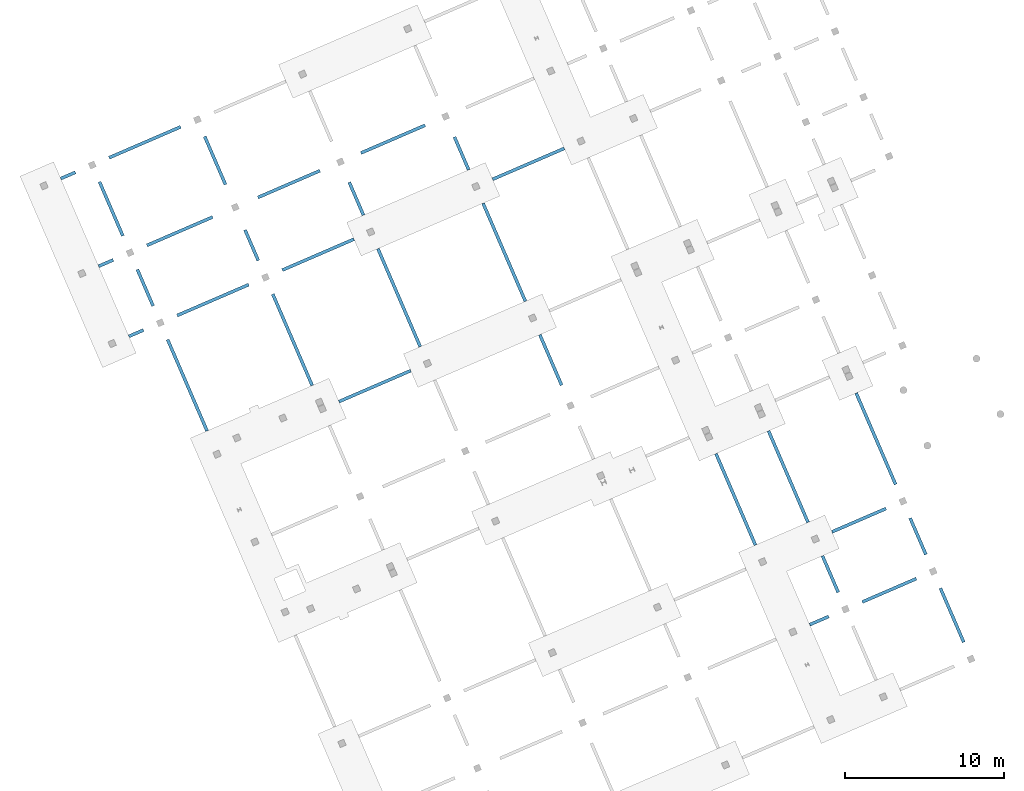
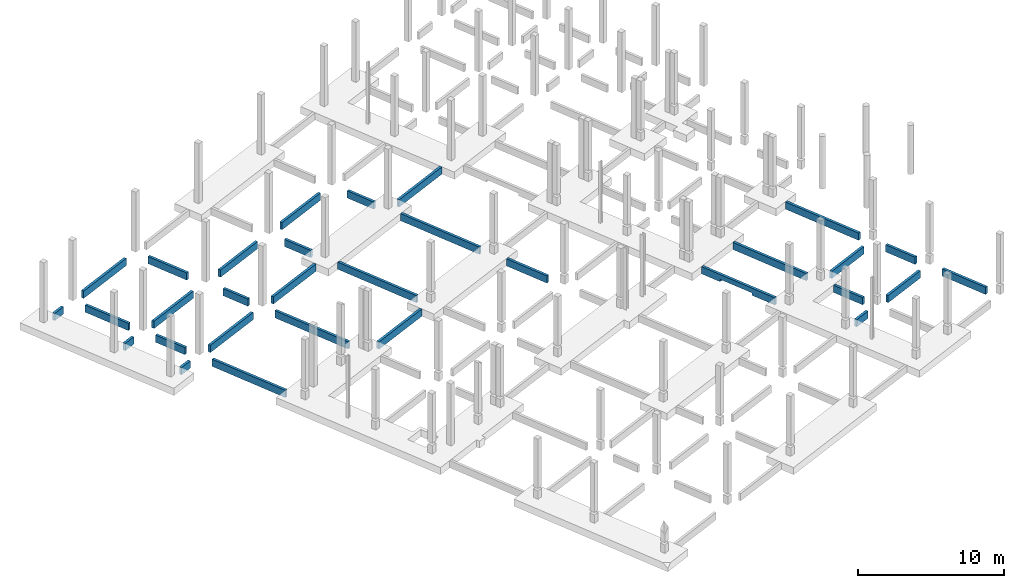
# One storey, part 9 of 11: 31 beams.
"""IFC4 building model written with IfcOpenShell, lengths in metres."""

from ifc_helpers import new_model, entity, si_unit, converted_unit, derived_unit, direction, frame, origin, place, context, subcontext, project, spatial, indexed_curve, outline, extrude, source, transform, mapped, material, type_object, type_shapes, element, save


model = new_model("IFC4")

# Units and contexts
model_context = context("Model", 3, precision=1e-05, world=origin(), true_north=direction((6.12323399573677e-17, 1.0)))
body_context = subcontext(model_context, "Body", "Model", "MODEL_VIEW")
ifc_project = project(units=[si_unit("LENGTHUNIT", "METRE"), si_unit("AREAUNIT", "SQUARE_METRE"), si_unit("VOLUMEUNIT", "CUBIC_METRE"), converted_unit("PLANEANGLEUNIT", "DEGREE", entity("IfcPlaneAngleMeasure", 0.0174532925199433), si_unit("PLANEANGLEUNIT", "RADIAN"), dimensions=[0, 0, 0, 0, 0, 0, 0]), si_unit("MASSUNIT", "GRAM", prefix="KILO"), derived_unit("MOMENTOFINERTIAUNIT", [(si_unit("LENGTHUNIT", "METRE"), 4)]), derived_unit("LINEARFORCEUNIT", [(si_unit("MASSUNIT", "GRAM", prefix="KILO"), 1), (si_unit("TIMEUNIT", "SECOND"), -2)]), derived_unit("WARPINGCONSTANTUNIT", [(si_unit("LENGTHUNIT", "METRE"), 6)]), derived_unit("THERMALTRANSMITTANCEUNIT", [(si_unit("MASSUNIT", "GRAM", prefix="KILO"), 1), (si_unit("THERMODYNAMICTEMPERATUREUNIT", "KELVIN"), -1), (si_unit("TIMEUNIT", "SECOND"), -3)]), derived_unit("USERDEFINED", [(si_unit("MASSUNIT", "GRAM", prefix="KILO"), 1), (si_unit("TIMEUNIT", "SECOND"), -2), (si_unit("THERMODYNAMICTEMPERATUREUNIT", "KELVIN"), -1)]), derived_unit("THERMALRESISTANCEUNIT", [(si_unit("MASSUNIT", "GRAM", prefix="KILO"), -1), (si_unit("TIMEUNIT", "SECOND"), 3), (si_unit("THERMODYNAMICTEMPERATUREUNIT", "KELVIN"), 1)])], contexts=[model_context])

# Site, building, storey
site_placement = place(None, origin())
site = spatial("IfcSite", under=ifc_project, at=site_placement, Name="Default", CompositionType="ELEMENT")
building_placement = place(site_placement, frame((12.6613425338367, -82.5732315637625, 317.15), z_axis=(0.0, 0.0, 1.0), x_axis=(-0.396377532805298, 0.918087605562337, 0.0)))
building = spatial("IfcBuilding", under=site, at=building_placement, Name="CESFAM Coyhaique", CompositionType="ELEMENT")
storey_placement = place(building_placement, frame((0.0, 0.0, -0.950000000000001)))
storey = spatial("IfcBuildingStorey", under=building, at=storey_placement, Name="d_Fundaciones", CompositionType="ELEMENT", Elevation=-0.950000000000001)

# Beams
ifc_material = material(Name="HA")
beam_type_1 = type_object("IfcBeamType", Name="M_Concrete-Rectangular Beam:200 x 600mm", PredefinedType="BEAM", material=ifc_material)
shared_shape_1 = source(origin(), body_context, "Body", "SweptSolid", [
    extrude(outline(indexed_curve([(-0.100000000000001, -0.3), (0.100000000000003, -0.3), (0.100000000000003, 0.3), (-0.100000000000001, 0.3), (-0.100000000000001, -0.3)], self_intersect=False)), frame((10.1688534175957, -12.7471495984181, -1.25), z_axis=(0.0, -1.0, 0.0), x_axis=(-1.0, 0.0, 0.0)), (0.0, 0.0, 1.0), 1.29999999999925),
])
type_shapes(beam_type_1, [shared_shape_1])
beam_1_placement = place(storey_placement, frame((0.0, 0.0, 0.950000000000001)))
element("IfcBeam", 1, at=beam_1_placement, inside=storey, type_object=beam_type_1, Name="M_Concrete-Rectangular Beam:200 x 600mm", ObjectType="M_Concrete-Rectangular Beam:200 x 600mm", PredefinedType="BEAM", context=body_context, shape_type="MappedRepresentation", body=[
    mapped(shared_shape_1, transform((0.0, 0.0, 0.0), scale=1.0)),
])
beam_type_2 = type_object("IfcBeamType", Name="M_Concrete-Rectangular Beam:200 x 600mm", PredefinedType="BEAM", material=ifc_material)
shared_shape_2 = source(origin(), body_context, "Body", "SweptSolid", [
    extrude(outline(indexed_curve([(-0.3, -0.100000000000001), (0.3, -0.100000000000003), (0.3, 0.100000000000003), (-0.3, 0.100000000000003), (-0.3, -0.100000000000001)], self_intersect=False)), frame((11.3188534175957, -15.1971495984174, -1.25), z_axis=(1.0, 0.0, 0.0), x_axis=(0.0, 0.0, -1.0)), (0.0, 0.0, 1.0), 2.50000000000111),
])
type_shapes(beam_type_2, [shared_shape_2])
beam_2_placement = place(storey_placement, frame((0.0, 0.0, 0.950000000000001)))
element("IfcBeam", 2, at=beam_2_placement, inside=storey, type_object=beam_type_2, Name="M_Concrete-Rectangular Beam:200 x 600mm", ObjectType="M_Concrete-Rectangular Beam:200 x 600mm", PredefinedType="BEAM", context=body_context, shape_type="MappedRepresentation", body=[
    mapped(shared_shape_2, transform((0.0, 0.0, 0.0), scale=1.0)),
])
beam_type_3 = type_object("IfcBeamType", Name="M_Concrete-Rectangular Beam:200 x 600mm", PredefinedType="BEAM", material=ifc_material)
shared_shape_3 = source(origin(), body_context, "Body", "SweptSolid", [
    extrude(outline(indexed_curve([(-0.100000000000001, -0.3), (0.100000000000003, -0.3), (0.100000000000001, 0.3), (-0.100000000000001, 0.3), (-0.100000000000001, -0.3)], self_intersect=False)), frame((10.1688534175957, -16.3471495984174, -1.25), z_axis=(0.0, -1.0, 0.0), x_axis=(-1.0, 0.0, 0.0)), (0.0, 0.0, 1.0), 3.69999999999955),
])
type_shapes(beam_type_3, [shared_shape_3])
beam_3_placement = place(storey_placement, frame((0.0, 0.0, 0.950000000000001)))
element("IfcBeam", 3, at=beam_3_placement, inside=storey, type_object=beam_type_3, Name="M_Concrete-Rectangular Beam:200 x 600mm", ObjectType="M_Concrete-Rectangular Beam:200 x 600mm", PredefinedType="BEAM", context=body_context, shape_type="MappedRepresentation", body=[
    mapped(shared_shape_3, transform((0.0, 0.0, 0.0), scale=1.0)),
])
beam_type_4 = type_object("IfcBeamType", Name="M_Concrete-Rectangular Beam:200 x 600mm", PredefinedType="BEAM", material=ifc_material)
shared_shape_4 = source(origin(), body_context, "Body", "SweptSolid", [
    extrude(outline(indexed_curve([(-0.100000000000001, -0.3), (0.100000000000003, -0.3), (0.100000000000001, 0.3), (-0.100000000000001, 0.3), (-0.100000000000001, -0.3)], self_intersect=False)), frame((14.9688534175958, -16.3471495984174, -1.25), z_axis=(0.0, -1.0, 0.0), x_axis=(-1.0, 0.0, 0.0)), (0.0, 0.0, 1.0), 3.69999999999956),
])
type_shapes(beam_type_4, [shared_shape_4])
beam_4_placement = place(storey_placement, frame((0.0, 0.0, 0.950000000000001)))
element("IfcBeam", 4, at=beam_4_placement, inside=storey, type_object=beam_type_4, Name="M_Concrete-Rectangular Beam:200 x 600mm", ObjectType="M_Concrete-Rectangular Beam:200 x 600mm", PredefinedType="BEAM", context=body_context, shape_type="MappedRepresentation", body=[
    mapped(shared_shape_4, transform((0.0, 0.0, 0.0), scale=1.0)),
])
beam_type_5 = type_object("IfcBeamType", Name="M_Concrete-Rectangular Beam:200 x 600mm", PredefinedType="BEAM", material=ifc_material)
shared_shape_5 = source(origin(), body_context, "Body", "SweptSolid", [
    extrude(outline(indexed_curve([(-0.3, -0.0999999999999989), (0.3, -0.100000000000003), (0.3, 0.100000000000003), (-0.3, 0.100000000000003), (-0.3, -0.0999999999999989)], self_intersect=False)), frame((5.31885341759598, -21.1971495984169, -1.25), z_axis=(1.0, 0.0, 0.0), x_axis=(0.0, 0.0, -1.0)), (0.0, 0.0, 1.0), 3.70000000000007),
])
type_shapes(beam_type_5, [shared_shape_5])
beam_5_placement = place(storey_placement, frame((0.0, 0.0, 0.950000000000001)))
element("IfcBeam", 5, at=beam_5_placement, inside=storey, type_object=beam_type_5, Name="M_Concrete-Rectangular Beam:200 x 600mm", ObjectType="M_Concrete-Rectangular Beam:200 x 600mm", PredefinedType="BEAM", context=body_context, shape_type="MappedRepresentation", body=[
    mapped(shared_shape_5, transform((0.0, 0.0, 0.0), scale=1.0)),
])
beam_type_6 = type_object("IfcBeamType", Name="M_Concrete-Rectangular Beam:200 x 600mm", PredefinedType="BEAM", material=ifc_material)
shared_shape_6 = source(origin(), body_context, "Body", "SweptSolid", [
    extrude(outline(indexed_curve([(-0.3, -0.0999999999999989), (0.3, -0.0999999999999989), (0.3, 0.100000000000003), (-0.3, 0.100000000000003), (-0.3, -0.0999999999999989)], self_intersect=False)), frame((11.318853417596, -21.1971495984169, -1.25), z_axis=(1.0, 0.0, 0.0), x_axis=(0.0, 0.0, -1.0)), (0.0, 0.0, 1.0), 2.50000000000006),
])
type_shapes(beam_type_6, [shared_shape_6])
beam_6_placement = place(storey_placement, frame((0.0, 0.0, 0.950000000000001)))
element("IfcBeam", 6, at=beam_6_placement, inside=storey, type_object=beam_type_6, Name="M_Concrete-Rectangular Beam:200 x 600mm", ObjectType="M_Concrete-Rectangular Beam:200 x 600mm", PredefinedType="BEAM", context=body_context, shape_type="MappedRepresentation", body=[
    mapped(shared_shape_6, transform((0.0, 0.0, 0.0), scale=1.0)),
])
beam_type_7 = type_object("IfcBeamType", Name="M_Concrete-Rectangular Beam:200 x 600mm", PredefinedType="BEAM", material=ifc_material)
shared_shape_7 = source(origin(), body_context, "Body", "SweptSolid", [
    extrude(outline(indexed_curve([(-0.100000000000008, -0.3), (0.0999999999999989, -0.3), (0.100000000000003, 0.3), (-0.100000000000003, 0.3), (-0.100000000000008, -0.3)], self_intersect=False)), frame((34.768853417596, 3.95285040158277, -1.25), z_axis=(0.0, 1.0, 0.0), x_axis=(-1.0, 0.0, 0.0)), (0.0, 0.0, 1.0), 4.89999999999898),
])
type_shapes(beam_type_7, [shared_shape_7])
beam_7_placement = place(storey_placement, frame((0.0, 0.0, 0.950000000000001)))
element("IfcBeam", 7, at=beam_7_placement, inside=storey, type_object=beam_type_7, Name="M_Concrete-Rectangular Beam:200 x 600mm", ObjectType="M_Concrete-Rectangular Beam:200 x 600mm", PredefinedType="BEAM", context=body_context, shape_type="MappedRepresentation", body=[
    mapped(shared_shape_7, transform((0.0, 0.0, 0.0), scale=1.0)),
])
beam_type_8 = type_object("IfcBeamType", Name="M_Concrete-Rectangular Beam:200 x 600mm", PredefinedType="BEAM", material=ifc_material)
shared_shape_8 = source(origin(), body_context, "Body", "SweptSolid", [
    extrude(outline(indexed_curve([(-0.3, -0.100000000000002), (0.3, -0.100000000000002), (0.3, 0.100000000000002), (-0.3, 0.100000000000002), (-0.3, -0.100000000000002)], self_intersect=False)), frame((30.1688534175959, -4.39714959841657, -1.25), z_axis=(1.0, 0.0, 0.0), x_axis=(0.0, 0.0, -1.0)), (0.0, 0.0, 1.0), 3.45000000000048),
])
type_shapes(beam_type_8, [shared_shape_8])
beam_8_placement = place(storey_placement, frame((0.0, 0.0, 0.950000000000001)))
element("IfcBeam", 8, at=beam_8_placement, inside=storey, type_object=beam_type_8, Name="M_Concrete-Rectangular Beam:200 x 600mm", ObjectType="M_Concrete-Rectangular Beam:200 x 600mm", PredefinedType="BEAM", context=body_context, shape_type="MappedRepresentation", body=[
    mapped(shared_shape_8, transform((0.0, 0.0, 0.0), scale=1.0)),
])
beam_type_9 = type_object("IfcBeamType", Name="M_Concrete-Rectangular Beam:200 x 600mm", PredefinedType="BEAM", material=ifc_material)
shared_shape_9 = source(origin(), body_context, "Body", "SweptSolid", [
    extrude(outline(indexed_curve([(-0.0999999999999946, -0.3), (0.100000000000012, -0.3), (0.100000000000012, 0.3), (-0.0999999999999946, 0.3), (-0.0999999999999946, -0.3)], self_intersect=False)), frame((43.7688534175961, 19.3528502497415, -1.25), z_axis=(0.0, -1.0, 0.0), x_axis=(-1.0, 0.0, 0.0)), (0.0, 0.0, 1.0), 0.99999984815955),
])
type_shapes(beam_type_9, [shared_shape_9])
beam_9_placement = place(storey_placement, frame((0.0, 0.0, 0.950000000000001)))
element("IfcBeam", 9, at=beam_9_placement, inside=storey, type_object=beam_type_9, Name="M_Concrete-Rectangular Beam:200 x 600mm", ObjectType="M_Concrete-Rectangular Beam:200 x 600mm", PredefinedType="BEAM", context=body_context, shape_type="MappedRepresentation", body=[
    mapped(shared_shape_9, transform((0.0, 0.0, 0.0), scale=1.0)),
])
beam_type_10 = type_object("IfcBeamType", Name="M_Concrete-Rectangular Beam:200 x 600mm", PredefinedType="BEAM", material=ifc_material)
shared_shape_10 = source(origin(), body_context, "Body", "SweptSolid", [
    extrude(outline(indexed_curve([(-0.0999999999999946, -0.3), (0.100000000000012, -0.3), (0.100000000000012, 0.3), (-0.0999999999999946, 0.3), (-0.0999999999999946, -0.3)], self_intersect=False)), frame((48.5688534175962, 19.3528502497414, -1.25), z_axis=(0.0, -1.0, 0.0), x_axis=(-1.0, 0.0, 0.0)), (0.0, 0.0, 1.0), 0.999999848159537),
])
type_shapes(beam_type_10, [shared_shape_10])
beam_10_placement = place(storey_placement, frame((0.0, 0.0, 0.950000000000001)))
element("IfcBeam", 10, at=beam_10_placement, inside=storey, type_object=beam_type_10, Name="M_Concrete-Rectangular Beam:200 x 600mm", ObjectType="M_Concrete-Rectangular Beam:200 x 600mm", PredefinedType="BEAM", context=body_context, shape_type="MappedRepresentation", body=[
    mapped(shared_shape_10, transform((0.0, 0.0, 0.0), scale=1.0)),
])
beam_type_11 = type_object("IfcBeamType", Name="M_Concrete-Rectangular Beam:200 x 600mm", PredefinedType="BEAM", material=ifc_material)
shared_shape_11 = source(origin(), body_context, "Body", "SweptSolid", [
    extrude(outline(indexed_curve([(-0.0999999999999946, -0.3), (0.100000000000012, -0.3), (0.100000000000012, 0.3), (-0.0999999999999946, 0.3), (-0.0999999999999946, -0.3)], self_intersect=False)), frame((54.5688534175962, 19.3528502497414, -1.25), z_axis=(0.0, -1.0, 0.0), x_axis=(-1.0, 0.0, 0.0)), (0.0, 0.0, 1.0), 0.999999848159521),
])
type_shapes(beam_type_11, [shared_shape_11])
beam_11_placement = place(storey_placement, frame((0.0, 0.0, 0.950000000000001)))
element("IfcBeam", 11, at=beam_11_placement, inside=storey, type_object=beam_type_11, Name="M_Concrete-Rectangular Beam:200 x 600mm", ObjectType="M_Concrete-Rectangular Beam:200 x 600mm", PredefinedType="BEAM", context=body_context, shape_type="MappedRepresentation", body=[
    mapped(shared_shape_11, transform((0.0, 0.0, 0.0), scale=1.0)),
])
beam_type_12 = type_object("IfcBeamType", Name="M_Concrete-Rectangular Beam:200 x 600mm", PredefinedType="BEAM", material=ifc_material)
shared_shape_12 = source(origin(), body_context, "Body", "SweptSolid", [
    extrude(outline(indexed_curve([(-0.3, -0.100000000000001), (0.3, -0.100000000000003), (0.3, 0.100000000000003), (-0.3, 0.100000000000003), (-0.3, -0.100000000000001)], self_intersect=False)), frame((44.9188534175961, 17.2028504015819, -1.25), z_axis=(1.0, 0.0, 0.0), x_axis=(0.0, 0.0, -1.0)), (0.0, 0.0, 1.0), 2.50000000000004),
])
type_shapes(beam_type_12, [shared_shape_12])
beam_12_placement = place(storey_placement, frame((0.0, 0.0, 0.950000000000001)))
element("IfcBeam", 12, at=beam_12_placement, inside=storey, type_object=beam_type_12, Name="M_Concrete-Rectangular Beam:200 x 600mm", ObjectType="M_Concrete-Rectangular Beam:200 x 600mm", PredefinedType="BEAM", context=body_context, shape_type="MappedRepresentation", body=[
    mapped(shared_shape_12, transform((0.0, 0.0, 0.0), scale=1.0)),
])
beam_type_13 = type_object("IfcBeamType", Name="M_Concrete-Rectangular Beam:200 x 600mm", PredefinedType="BEAM", material=ifc_material)
shared_shape_13 = source(origin(), body_context, "Body", "SweptSolid", [
    extrude(outline(indexed_curve([(-0.3, -0.100000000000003), (0.3, -0.100000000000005), (0.3, 0.100000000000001), (-0.3, 0.100000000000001), (-0.3, -0.100000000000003)], self_intersect=False)), frame((49.7188534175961, 17.2028504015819, -1.25), z_axis=(1.0, 0.0, 0.0), x_axis=(0.0, 0.0, -1.0)), (0.0, 0.0, 1.0), 3.70000000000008),
])
type_shapes(beam_type_13, [shared_shape_13])
beam_13_placement = place(storey_placement, frame((0.0, 0.0, 0.950000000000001)))
element("IfcBeam", 13, at=beam_13_placement, inside=storey, type_object=beam_type_13, Name="M_Concrete-Rectangular Beam:200 x 600mm", ObjectType="M_Concrete-Rectangular Beam:200 x 600mm", PredefinedType="BEAM", context=body_context, shape_type="MappedRepresentation", body=[
    mapped(shared_shape_13, transform((0.0, 0.0, 0.0), scale=1.0)),
])
beam_type_14 = type_object("IfcBeamType", Name="M_Concrete-Rectangular Beam:200 x 600mm", PredefinedType="BEAM", material=ifc_material)
shared_shape_14 = source(origin(), body_context, "Body", "SweptSolid", [
    extrude(outline(indexed_curve([(-0.100000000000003, -0.3), (0.100000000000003, -0.3), (0.100000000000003, 0.3), (-0.100000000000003, 0.3), (-0.100000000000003, -0.3)], self_intersect=False)), frame((43.7688534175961, 16.0528504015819, -1.25), z_axis=(0.0, -1.0, 0.0), x_axis=(-1.0, 0.0, 0.0)), (0.0, 0.0, 1.0), 4.9),
])
type_shapes(beam_type_14, [shared_shape_14])
beam_14_placement = place(storey_placement, frame((0.0, 0.0, 0.950000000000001)))
element("IfcBeam", 14, at=beam_14_placement, inside=storey, type_object=beam_type_14, Name="M_Concrete-Rectangular Beam:200 x 600mm", ObjectType="M_Concrete-Rectangular Beam:200 x 600mm", PredefinedType="BEAM", context=body_context, shape_type="MappedRepresentation", body=[
    mapped(shared_shape_14, transform((0.0, 0.0, 0.0), scale=1.0)),
])
beam_type_15 = type_object("IfcBeamType", Name="M_Concrete-Rectangular Beam:200 x 600mm", PredefinedType="BEAM", material=ifc_material)
shared_shape_15 = source(origin(), body_context, "Body", "SweptSolid", [
    extrude(outline(indexed_curve([(-0.100000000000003, -0.3), (0.100000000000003, -0.3), (0.100000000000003, 0.3), (-0.100000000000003, 0.3), (-0.100000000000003, -0.3)], self_intersect=False)), frame((48.5688534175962, 16.0528504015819, -1.25), z_axis=(0.0, -1.0, 0.0), x_axis=(-1.0, 0.0, 0.0)), (0.0, 0.0, 1.0), 4.5),
])
type_shapes(beam_type_15, [shared_shape_15])
beam_15_placement = place(storey_placement, frame((0.0, 0.0, 0.950000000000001)))
element("IfcBeam", 15, at=beam_15_placement, inside=storey, type_object=beam_type_15, Name="M_Concrete-Rectangular Beam:200 x 600mm", ObjectType="M_Concrete-Rectangular Beam:200 x 600mm", PredefinedType="BEAM", context=body_context, shape_type="MappedRepresentation", body=[
    mapped(shared_shape_15, transform((0.0, 0.0, 0.0), scale=1.0)),
])
beam_type_16 = type_object("IfcBeamType", Name="M_Concrete-Rectangular Beam:200 x 600mm", PredefinedType="BEAM", material=ifc_material)
shared_shape_16 = source(origin(), body_context, "Body", "SweptSolid", [
    extrude(outline(indexed_curve([(-0.100000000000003, -0.3), (0.100000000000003, -0.3), (0.100000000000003, 0.3), (-0.100000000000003, 0.3), (-0.100000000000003, -0.3)], self_intersect=False)), frame((54.5688534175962, 16.0528504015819, -1.25), z_axis=(0.0, -1.0, 0.0), x_axis=(-1.0, 0.0, 0.0)), (0.0, 0.0, 1.0), 4.9),
])
type_shapes(beam_type_16, [shared_shape_16])
beam_16_placement = place(storey_placement, frame((0.0, 0.0, 0.950000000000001)))
element("IfcBeam", 16, at=beam_16_placement, inside=storey, type_object=beam_type_16, Name="M_Concrete-Rectangular Beam:200 x 600mm", ObjectType="M_Concrete-Rectangular Beam:200 x 600mm", PredefinedType="BEAM", context=body_context, shape_type="MappedRepresentation", body=[
    mapped(shared_shape_16, transform((0.0, 0.0, 0.0), scale=1.0)),
])
beam_type_17 = type_object("IfcBeamType", Name="M_Concrete-Rectangular Beam:200 x 600mm", PredefinedType="BEAM", material=ifc_material)
shared_shape_17 = source(origin(), body_context, "Body", "SweptSolid", [
    extrude(outline(indexed_curve([(-0.3, -0.100000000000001), (0.3, -0.100000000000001), (0.3, 0.100000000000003), (-0.3, 0.100000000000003), (-0.3, -0.100000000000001)], self_intersect=False)), frame((44.9188534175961, 10.0028504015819, -1.25), z_axis=(1.0, 0.0, 0.0), x_axis=(0.0, 0.0, -1.0)), (0.0, 0.0, 1.0), 2.10000000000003),
])
type_shapes(beam_type_17, [shared_shape_17])
beam_17_placement = place(storey_placement, frame((0.0, 0.0, 0.950000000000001)))
element("IfcBeam", 17, at=beam_17_placement, inside=storey, type_object=beam_type_17, Name="M_Concrete-Rectangular Beam:200 x 600mm", ObjectType="M_Concrete-Rectangular Beam:200 x 600mm", PredefinedType="BEAM", context=body_context, shape_type="MappedRepresentation", body=[
    mapped(shared_shape_17, transform((0.0, 0.0, 0.0), scale=1.0)),
])
beam_type_18 = type_object("IfcBeamType", Name="M_Concrete-Rectangular Beam:200 x 600mm", PredefinedType="BEAM", material=ifc_material)
shared_shape_18 = source(origin(), body_context, "Body", "SweptSolid", [
    extrude(outline(indexed_curve([(-0.3, -0.100000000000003), (0.3, -0.100000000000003), (0.3, 0.100000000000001), (-0.3, 0.100000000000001), (-0.3, -0.100000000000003)], self_intersect=False)), frame((50.1188534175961, 10.0028504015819, -1.25), z_axis=(1.0, 0.0, 0.0), x_axis=(0.0, 0.0, -1.0)), (0.0, 0.0, 1.0), 3.30000000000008),
])
type_shapes(beam_type_18, [shared_shape_18])
beam_18_placement = place(storey_placement, frame((0.0, 0.0, 0.950000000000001)))
element("IfcBeam", 18, at=beam_18_placement, inside=storey, type_object=beam_type_18, Name="M_Concrete-Rectangular Beam:200 x 600mm", ObjectType="M_Concrete-Rectangular Beam:200 x 600mm", PredefinedType="BEAM", context=body_context, shape_type="MappedRepresentation", body=[
    mapped(shared_shape_18, transform((0.0, 0.0, 0.0), scale=1.0)),
])
beam_type_19 = type_object("IfcBeamType", Name="M_Concrete-Rectangular Beam:200 x 600mm", PredefinedType="BEAM", material=ifc_material)
shared_shape_19 = source(origin(), body_context, "Body", "SweptSolid", [
    extrude(outline(indexed_curve([(-0.100000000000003, -0.3), (0.100000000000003, -0.3), (0.100000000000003, 0.3), (-0.100000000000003, 0.3), (-0.100000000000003, -0.3)], self_intersect=False)), frame((43.7688534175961, 8.8528504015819, -1.25), z_axis=(0.0, -1.0, 0.0), x_axis=(-1.0, 0.0, 0.0)), (0.0, 0.0, 1.0), 4.89999999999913),
])
type_shapes(beam_type_19, [shared_shape_19])
beam_19_placement = place(storey_placement, frame((0.0, 0.0, 0.950000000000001)))
element("IfcBeam", 19, at=beam_19_placement, inside=storey, type_object=beam_type_19, Name="M_Concrete-Rectangular Beam:200 x 600mm", ObjectType="M_Concrete-Rectangular Beam:200 x 600mm", PredefinedType="BEAM", context=body_context, shape_type="MappedRepresentation", body=[
    mapped(shared_shape_19, transform((0.0, 0.0, 0.0), scale=1.0)),
])
beam_type_20 = type_object("IfcBeamType", Name="M_Concrete-Rectangular Beam:200 x 600mm", PredefinedType="BEAM", material=ifc_material)
shared_shape_20 = source(origin(), body_context, "Body", "SweptSolid", [
    extrude(outline(indexed_curve([(-0.100000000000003, -0.3), (0.100000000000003, -0.3), (0.100000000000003, 0.3), (-0.100000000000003, 0.3), (-0.100000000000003, -0.3)], self_intersect=False)), frame((48.5688534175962, 8.45285040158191, -1.25), z_axis=(0.0, -1.0, 0.0), x_axis=(-1.0, 0.0, 0.0)), (0.0, 0.0, 1.0), 4.24999999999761),
])
type_shapes(beam_type_20, [shared_shape_20])
beam_20_placement = place(storey_placement, frame((0.0, 0.0, 0.950000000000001)))
element("IfcBeam", 20, at=beam_20_placement, inside=storey, type_object=beam_type_20, Name="M_Concrete-Rectangular Beam:200 x 600mm", ObjectType="M_Concrete-Rectangular Beam:200 x 600mm", PredefinedType="BEAM", context=body_context, shape_type="MappedRepresentation", body=[
    mapped(shared_shape_20, transform((0.0, 0.0, 0.0), scale=1.0)),
])
beam_type_21 = type_object("IfcBeamType", Name="M_Concrete-Rectangular Beam:200 x 600mm", PredefinedType="BEAM", material=ifc_material)
shared_shape_21 = source(origin(), body_context, "Body", "SweptSolid", [
    extrude(outline(indexed_curve([(-0.3, -0.100000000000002), (0.3, -0.100000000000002), (0.3, 0.100000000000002), (-0.3, 0.100000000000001), (-0.3, -0.100000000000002)], self_intersect=False)), frame((44.9188534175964, 2.80285040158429, -1.25), z_axis=(1.0, 0.0, 0.0), x_axis=(0.0, 0.0, -1.0)), (0.0, 0.0, 1.0), 2.24999999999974),
])
type_shapes(beam_type_21, [shared_shape_21])
beam_21_placement = place(storey_placement, frame((0.0, 0.0, 0.950000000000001)))
element("IfcBeam", 21, at=beam_21_placement, inside=storey, type_object=beam_type_21, Name="M_Concrete-Rectangular Beam:200 x 600mm", ObjectType="M_Concrete-Rectangular Beam:200 x 600mm", PredefinedType="BEAM", context=body_context, shape_type="MappedRepresentation", body=[
    mapped(shared_shape_21, transform((0.0, 0.0, 0.0), scale=1.0)),
])
beam_type_22 = type_object("IfcBeamType", Name="M_Concrete-Rectangular Beam:200 x 600mm", PredefinedType="BEAM", material=ifc_material)
shared_shape_22 = source(origin(), body_context, "Body", "SweptSolid", [
    extrude(outline(indexed_curve([(-0.100000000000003, -0.3), (0.100000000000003, -0.3), (0.100000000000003, 0.3), (-0.100000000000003, 0.3), (-0.100000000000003, -0.3)], self_intersect=False)), frame((48.5688534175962, 1.4028504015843, -1.25), z_axis=(0.0, -1.0, 0.0), x_axis=(-1.0, 0.0, 0.0)), (0.0, 0.0, 1.0), 4.40000000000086),
])
type_shapes(beam_type_22, [shared_shape_22])
beam_22_placement = place(storey_placement, frame((0.0, 0.0, 0.950000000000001)))
element("IfcBeam", 22, at=beam_22_placement, inside=storey, type_object=beam_type_22, Name="M_Concrete-Rectangular Beam:200 x 600mm", ObjectType="M_Concrete-Rectangular Beam:200 x 600mm", PredefinedType="BEAM", context=body_context, shape_type="MappedRepresentation", body=[
    mapped(shared_shape_22, transform((0.0, 0.0, 0.0), scale=1.0)),
])
beam_type_23 = type_object("IfcBeamType", Name="M_Concrete-Rectangular Beam:200 x 600mm", PredefinedType="BEAM", material=ifc_material)
shared_shape_23 = source(origin(), body_context, "Body", "SweptSolid", [
    extrude(outline(indexed_curve([(-0.3, -0.100000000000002), (0.3, -0.100000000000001), (0.3, 0.100000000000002), (-0.3, 0.100000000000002), (-0.3, -0.100000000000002)], self_intersect=False)), frame((44.9188534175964, -4.39714959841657, -1.25), z_axis=(1.0, 0.0, 0.0), x_axis=(0.0, 0.0, -1.0)), (0.0, 0.0, 1.0), 2.24999999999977),
])
type_shapes(beam_type_23, [shared_shape_23])
beam_23_placement = place(storey_placement, frame((0.0, 0.0, 0.950000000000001)))
element("IfcBeam", 23, at=beam_23_placement, inside=storey, type_object=beam_type_23, Name="M_Concrete-Rectangular Beam:200 x 600mm", ObjectType="M_Concrete-Rectangular Beam:200 x 600mm", PredefinedType="BEAM", context=body_context, shape_type="MappedRepresentation", body=[
    mapped(shared_shape_23, transform((0.0, 0.0, 0.0), scale=1.0)),
])
beam_type_24 = type_object("IfcBeamType", Name="M_Concrete-Rectangular Beam:200 x 600mm", PredefinedType="BEAM", material=ifc_material)
shared_shape_24 = source(origin(), body_context, "Body", "SweptSolid", [
    extrude(outline(indexed_curve([(-0.100000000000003, -0.3), (0.100000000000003, -0.3), (0.100000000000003, 0.3), (-0.100000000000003, 0.3), (-0.100000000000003, -0.3)], self_intersect=False)), frame((43.7688534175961, -10.4471495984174, -1.25), z_axis=(0.0, 1.0, 0.0), x_axis=(-1.0, 0.0, 0.0)), (0.0, 0.0, 1.0), 4.9000000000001),
])
type_shapes(beam_type_24, [shared_shape_24])
beam_24_placement = place(storey_placement, frame((0.0, 0.0, 0.950000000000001)))
element("IfcBeam", 24, at=beam_24_placement, inside=storey, type_object=beam_type_24, Name="M_Concrete-Rectangular Beam:200 x 600mm", ObjectType="M_Concrete-Rectangular Beam:200 x 600mm", PredefinedType="BEAM", context=body_context, shape_type="MappedRepresentation", body=[
    mapped(shared_shape_24, transform((0.0, 0.0, 0.0), scale=1.0)),
])
beam_type_25 = type_object("IfcBeamType", Name="M_Concrete-Rectangular Beam:200 x 600mm", PredefinedType="BEAM", material=ifc_material)
shared_shape_25 = source(origin(), body_context, "Body", "SweptSolid", [
    extrude(outline(indexed_curve([(-0.3, -0.100000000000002), (0.3, -0.100000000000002), (0.3, 0.100000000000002), (-0.3, 0.100000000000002), (-0.3, -0.100000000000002)], self_intersect=False)), frame((35.9188534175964, -4.39714959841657, -1.25), z_axis=(1.0, 0.0, 0.0), x_axis=(0.0, 0.0, -1.0)), (0.0, 0.0, 1.0), 6.70000000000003),
])
type_shapes(beam_type_25, [shared_shape_25])
beam_25_placement = place(storey_placement, frame((0.0, 0.0, 0.950000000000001)))
element("IfcBeam", 25, at=beam_25_placement, inside=storey, type_object=beam_type_25, Name="M_Concrete-Rectangular Beam:200 x 600mm", ObjectType="M_Concrete-Rectangular Beam:200 x 600mm", PredefinedType="BEAM", context=body_context, shape_type="MappedRepresentation", body=[
    mapped(shared_shape_25, transform((0.0, 0.0, 0.0), scale=1.0)),
])
beam_type_26 = type_object("IfcBeamType", Name="M_Concrete-Rectangular Beam:200 x 600mm", PredefinedType="BEAM", material=ifc_material)
shared_shape_26 = source(origin(), body_context, "Body", "SweptSolid", [
    extrude(outline(indexed_curve([(-0.3, -0.100000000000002), (0.3, -0.100000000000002), (0.3, 0.100000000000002), (-0.3, 0.100000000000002), (-0.3, -0.100000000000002)], self_intersect=False)), frame((35.9188534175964, 2.80285040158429, -1.25), z_axis=(1.0, 0.0, 0.0), x_axis=(0.0, 0.0, -1.0)), (0.0, 0.0, 1.0), 6.70000000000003),
])
type_shapes(beam_type_26, [shared_shape_26])
beam_26_placement = place(storey_placement, frame((0.0, 0.0, 0.950000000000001)))
element("IfcBeam", 26, at=beam_26_placement, inside=storey, type_object=beam_type_26, Name="M_Concrete-Rectangular Beam:200 x 600mm", ObjectType="M_Concrete-Rectangular Beam:200 x 600mm", PredefinedType="BEAM", context=body_context, shape_type="MappedRepresentation", body=[
    mapped(shared_shape_26, transform((0.0, 0.0, 0.0), scale=1.0)),
])
beam_type_27 = type_object("IfcBeamType", Name="M_Concrete-Rectangular Beam:200 x 600mm", PredefinedType="BEAM", material=ifc_material)
shared_shape_27 = source(origin(), body_context, "Body", "SweptSolid", [
    extrude(outline(indexed_curve([(-0.3, -0.100000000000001), (0.3, -0.100000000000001), (0.3, 0.100000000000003), (-0.3, 0.100000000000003), (-0.3, -0.100000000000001)], self_intersect=False)), frame((36.3688534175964, 10.0028504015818, -1.25), z_axis=(1.0, 0.0, 0.0), x_axis=(0.0, 0.0, -1.0)), (0.0, 0.0, 1.0), 6.24999999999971),
])
type_shapes(beam_type_27, [shared_shape_27])
beam_27_placement = place(storey_placement, frame((0.0, 0.0, 0.950000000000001)))
element("IfcBeam", 27, at=beam_27_placement, inside=storey, type_object=beam_type_27, Name="M_Concrete-Rectangular Beam:200 x 600mm", ObjectType="M_Concrete-Rectangular Beam:200 x 600mm", PredefinedType="BEAM", context=body_context, shape_type="MappedRepresentation", body=[
    mapped(shared_shape_27, transform((0.0, 0.0, 0.0), scale=1.0)),
])
beam_type_28 = type_object("IfcBeamType", Name="M_Concrete-Rectangular Beam:200 x 600mm", PredefinedType="BEAM", material=ifc_material)
shared_shape_28 = source(origin(), body_context, "Body", "SweptSolid", [
    extrude(outline(indexed_curve([(-0.3, -0.1), (0.3, -0.100000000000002), (0.3, 0.1), (-0.3, 0.100000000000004), (-0.3, -0.1)], self_intersect=False)), frame((36.3688534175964, 17.2028504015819, -1.25), z_axis=(1.0, 0.0, 0.0), x_axis=(0.0, 0.0, -1.0)), (0.0, 0.0, 1.0), 6.24999999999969),
])
type_shapes(beam_type_28, [shared_shape_28])
beam_28_placement = place(storey_placement, frame((0.0, 0.0, 0.950000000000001)))
element("IfcBeam", 28, at=beam_28_placement, inside=storey, type_object=beam_type_28, Name="M_Concrete-Rectangular Beam:200 x 600mm", ObjectType="M_Concrete-Rectangular Beam:200 x 600mm", PredefinedType="BEAM", context=body_context, shape_type="MappedRepresentation", body=[
    mapped(shared_shape_28, transform((0.0, 0.0, 0.0), scale=1.0)),
])
beam_type_29 = type_object("IfcBeamType", Name="M_Concrete-Rectangular Beam:200 x 600mm", PredefinedType="BEAM", material=ifc_material)
shared_shape_29 = source(origin(), body_context, "Body", "SweptSolid", [
    extrude(outline(indexed_curve([(-0.3, -0.100000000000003), (0.3, -0.100000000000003), (0.3, 0.100000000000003), (-0.3, 0.100000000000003), (-0.3, -0.100000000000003)], self_intersect=False)), frame((16.1188534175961, -21.197149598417, -1.25), z_axis=(1.0, 0.0, 0.0), x_axis=(0.0, 0.0, -1.0)), (0.0, 0.0, 1.0), 6.24992409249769),
])
type_shapes(beam_type_29, [shared_shape_29])
beam_29_placement = place(storey_placement, frame((0.0, 0.0, 0.950000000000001)))
element("IfcBeam", 29, at=beam_29_placement, inside=storey, type_object=beam_type_29, Name="M_Concrete-Rectangular Beam:200 x 600mm", ObjectType="M_Concrete-Rectangular Beam:200 x 600mm", PredefinedType="BEAM", context=body_context, shape_type="MappedRepresentation", body=[
    mapped(shared_shape_29, transform((0.0, 0.0, 0.0), scale=1.0)),
])
beam_type_30 = type_object("IfcBeamType", Name="M_Concrete-Rectangular Beam:200 x 600mm", PredefinedType="BEAM", material=ifc_material)
shared_shape_30 = source(origin(), body_context, "Body", "SweptSolid", [
    extrude(outline(indexed_curve([(-0.3, -0.100000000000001), (0.3, -0.0999999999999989), (0.3, 0.100000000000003), (-0.3, 0.100000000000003), (-0.3, -0.100000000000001)], self_intersect=False)), frame((16.1188534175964, -15.1971495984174, -1.25), z_axis=(1.0, 0.0, 0.0), x_axis=(0.0, 0.0, -1.0)), (0.0, 0.0, 1.0), 6.25000000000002),
])
type_shapes(beam_type_30, [shared_shape_30])
beam_30_placement = place(storey_placement, frame((0.0, 0.0, 0.950000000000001)))
element("IfcBeam", 30, at=beam_30_placement, inside=storey, type_object=beam_type_30, Name="M_Concrete-Rectangular Beam:200 x 600mm", ObjectType="M_Concrete-Rectangular Beam:200 x 600mm", PredefinedType="BEAM", context=body_context, shape_type="MappedRepresentation", body=[
    mapped(shared_shape_30, transform((0.0, 0.0, 0.0), scale=1.0)),
])
beam_type_31 = type_object("IfcBeamType", Name="M_Concrete-Rectangular Beam:200 x 600mm", PredefinedType="BEAM", material=ifc_material)
shared_shape_31 = source(origin(), body_context, "Body", "SweptSolid", [
    extrude(outline(indexed_curve([(-3.03243968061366, -0.2), (-1.44251594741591, -0.2), (-1.44251594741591, 1.35358391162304e-15), (1.25739530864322, 1.35358391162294e-15), (1.25739530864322, -0.2), (3.21756031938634, -0.2), (3.21756031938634, 0.4), (-3.03243968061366, 0.4), (-3.03243968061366, -0.2)], self_intersect=False)), frame((19.3364137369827, -11.6971495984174, -1.35), z_axis=(0.0, 1.0, 0.0), x_axis=(-1.0, 0.0, 0.0)), (0.0, 0.0, 1.0), 0.200000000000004),
])
type_shapes(beam_type_31, [shared_shape_31])
beam_31_placement = place(storey_placement, frame((0.0, 0.0, 0.950000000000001)))
element("IfcBeam", 31, at=beam_31_placement, inside=storey, type_object=beam_type_31, Name="M_Concrete-Rectangular Beam:200 x 600mm", ObjectType="M_Concrete-Rectangular Beam:200 x 600mm", PredefinedType="BEAM", context=body_context, shape_type="MappedRepresentation", body=[
    mapped(shared_shape_31, transform((0.0, 0.0, 0.0), scale=1.0)),
])

save(model, "model.ifc")
